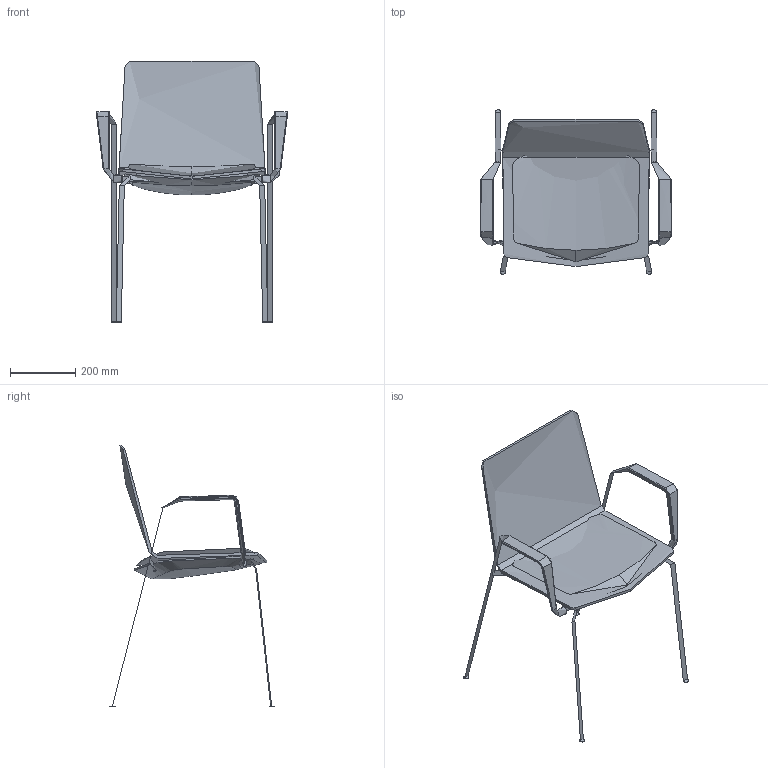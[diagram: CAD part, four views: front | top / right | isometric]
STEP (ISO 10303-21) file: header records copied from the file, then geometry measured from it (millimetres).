
FILE_DESCRIPTION(/* description */ (''),/* implementation_level */ '2;1');
FILE_NAME(/* name */ 'SK95B2~1',/* time_stamp */ '2016-02-19T12:58:51+01:00',/* author */ (''),/* organization */ (''),/* preprocessor_version */ 'ST-DEVELOPER v15',/* originating_system */ '',/* authorisation */ '');
FILE_SCHEMA (('CONFIG_CONTROL_DESIGN'));
Length unit declared in the file: millimetre
Products named in the file (1): Document
Bounding box: 588.94 x 506.3 x 803.23 mm (x, y, z)
Volume: 3092149.8 mm3; surface area: 1321590.2 mm2
Topology: 5 solids, 23 shells, 180 faces, 419 edges, 258 vertices
Faces by surface type: bspline 154, plane 26
Entity records: 13778 total; most frequent: CARTESIAN_POINT 11350, ORIENTED_EDGE 764, EDGE_CURVE 416, VERTEX_POINT 258, ADVANCED_FACE 180, FACE_OUTER_BOUND 180, EDGE_LOOP 180, B_SPLINE_CURVE_WITH_KNOTS 174
